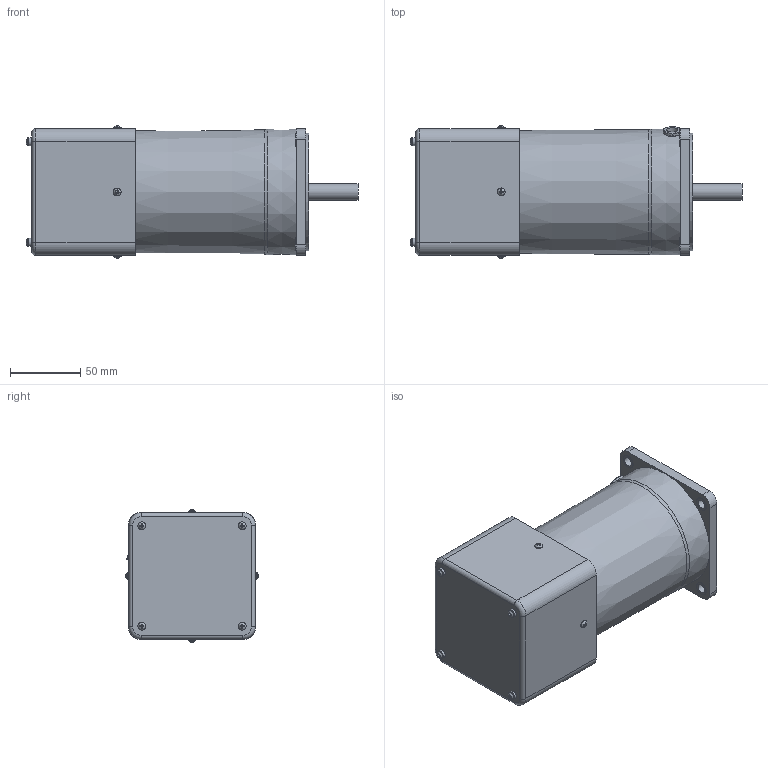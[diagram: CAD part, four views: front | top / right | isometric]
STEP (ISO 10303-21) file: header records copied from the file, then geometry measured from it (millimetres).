
FILE_DESCRIPTION((''),'2;1');
FILE_NAME('D:\yang\Yang cw\SPG 업무\2. DC MOTOR\7. DC MOTOR 브로슈어\AC MOTOR\90각 180W\STEP\S9I(R)180S-V.stp','2015-03-31T08:34:17',('ycw1227'),(''),'Autodesk Inventor 2013','Autodesk Inventor 2013','');
FILE_SCHEMA(('AUTOMOTIVE_DESIGN { 1 0 10303 214 1 1 1 1 }'));
Length unit declared in the file: millimetre
Products named in the file (1): 부품11
Bounding box: 235.75 x 93.89 x 93.89 mm (x, y, z)
Volume: 1086480.9 mm3; surface area: 110922.1 mm2
Topology: 1 solids, 7 shells, 282 faces, 675 edges, 435 vertices
Faces by surface type: plane 173, cylinder 69, torus 26, bspline 8, cone 6
Full cylindrical faces by diameter (mm): 3 x8, 4.5 x4, 5.6 x12, 6.5 x4, 8 x1, 9.5 x4, 10 x1, 12 x1, 40 x1, 83.5 x1
Entity records: 8601 total; most frequent: CARTESIAN_POINT 2144, DIRECTION 1216, ORIENTED_EDGE 1186, EDGE_CURVE 593, AXIS2_PLACEMENT_3D 449, VERTEX_POINT 422, EDGE_LOOP 397, VECTOR 318
